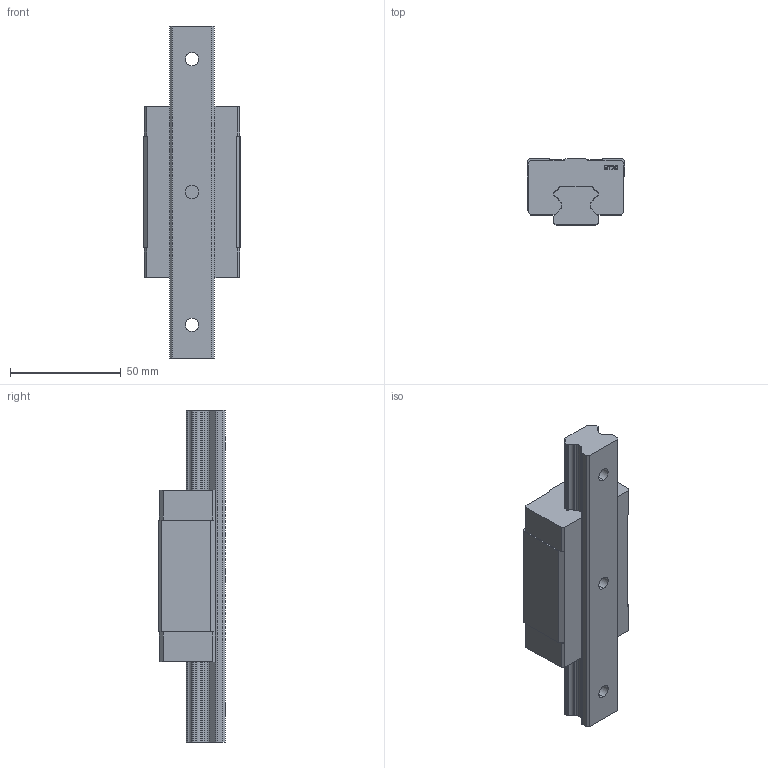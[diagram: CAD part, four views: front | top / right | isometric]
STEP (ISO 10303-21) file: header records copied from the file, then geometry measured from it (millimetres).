
FILE_DESCRIPTION (( 'STEP AP214' ), '1' );
FILE_NAME ('7.1017 Lineaarikelkka HTH20CA.STEP', '2026-03-11T06:26:03', ( '' ), ( '' ), 'SwSTEP 2.0', 'SolidWorks 2025', '' );
FILE_SCHEMA (( 'AUTOMOTIVE_DESIGN' ));
Length unit declared in the file: millimetre
Products named in the file (3): HTR20; 7.1017 Lineaarikelkka HTH20CA; HTH20
Assembly tree (2 placements, depth 2):
  7.1017 Lineaarikelkka HTH20CA
    HTH20
    HTR20
Bounding box: 44 x 30 x 150 mm (x, y, z)
Volume: 109568.9 mm3; surface area: 28095.9 mm2
Topology: 2 solids, 2 shells, 250 faces, 672 edges, 444 vertices
Faces by surface type: plane 160, cylinder 66, bspline 24
Entity records: 12700 total; most frequent: CARTESIAN_POINT 3591, ORIENTED_EDGE 1344, DIRECTION 1222, EDGE_CURVE 672, LINE 488, VECTOR 488, VERTEX_POINT 444, AXIS2_PLACEMENT_3D 367
